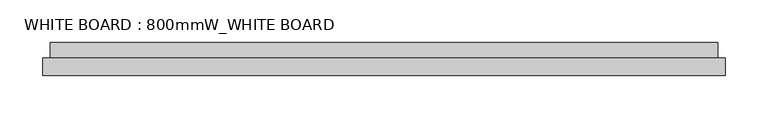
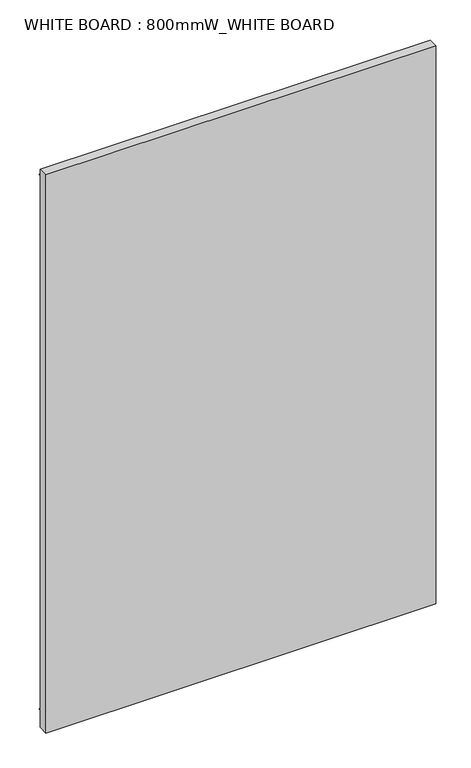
"""IFC4 building model written with IfcOpenShell, lengths in millimetres: furniture geometry, WHITE BOARD : 800mmW_WHITE BOARD."""

from ifc_helpers import new_model, si_unit, frame, origin, place, context, project, spatial, polyline, outline, extrude, source, transform, mapped, element, save


def white_board_800mmw_white_board_079351d3(model_context):
    return source(origin(), model_context, "Body", "SweptSolid", [
        extrude(outline(polyline([(-200.0, 18.0), (-200.0, 26.4125649), (-198.4450835, 26.4125649), (-198.4450835, 19.4408978), (-181.4542318, 19.4408978), (-181.4542318, 18.0), (-200.0, 18.0)])), frame((-391.003738, 0.0, 0.0), z_axis=(1.0, 0.0, 0.0), x_axis=(0.0, 1.0, 0.0)), (0.0, 0.0, 1.0), 782.003738),
        extrude(outline(polyline([(-200.0, 1178.0), (-181.4542318, 1178.0), (-181.4542318, 1176.5591022), (-198.4450835, 1176.5591022), (-198.4450835, 1169.5874351), (-200.0, 1169.5874351), (-200.0, 1178.0)])), frame((-391.003738, 0.0, 0.0), z_axis=(1.0, 0.0, 0.0), x_axis=(0.0, 1.0, 0.0)), (0.0, 0.0, 1.0), 782.003738),
        extrude(outline(polyline([(400.0, -220.0), (-400.0, -220.0), (-400.0, -200.0), (400.0, -200.0), (400.0, -220.0)])), frame((0.0, 0.0, -7.0), z_axis=(0.0, 0.0, 1.0), x_axis=(1.0, 0.0, 0.0)), (0.0, 0.0, 1.0), 1210.0),
    ])


if __name__ == "__main__":
    model = new_model("IFC4")
    model_context = context("Model", 3, world=origin())
    ifc_project = project(units=[si_unit("LENGTHUNIT", "METRE", prefix="MILLI")], contexts=[model_context])
    site = spatial("IfcSite", under=ifc_project)
    building = spatial("IfcBuilding", under=site)
    placement = place(None, origin())
    white_board_800mmw_white_board_shape = white_board_800mmw_white_board_079351d3(model_context)
    element("IfcFurniture", 1, ObjectType="WHITE BOARD : 800mmW_WHITE BOARD", at=placement, inside=building, context=model_context, shape_type="MappedRepresentation", body=[
        mapped(white_board_800mmw_white_board_shape, transform((0.0, 0.0, 0.0), x_axis=(1.0, 0.0, 0.0), y_axis=(0.0, 1.0, 0.0), z_axis=(0.0, 0.0, 1.0))),
    ])
    save(model, "model.ifc")
